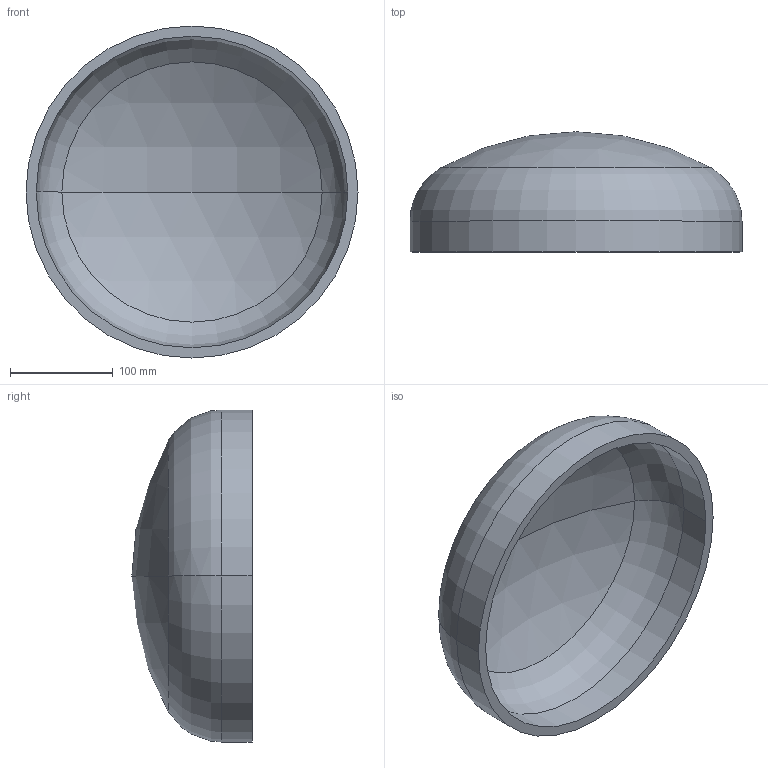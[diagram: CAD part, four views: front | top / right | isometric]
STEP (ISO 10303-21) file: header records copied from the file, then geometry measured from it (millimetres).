
FILE_DESCRIPTION (( 'STEP AP203' ), '1' );
FILE_NAME ('DIN 28013 Korbbogenform_-_Boden DIN 28013 - 323,9 x 30 - I - s=10.step', '2016-07-01T07:44:16', ( '' ), ( '' ), 'SwSTEP 2.0', 'SolidWorks 2013', '' );
FILE_SCHEMA (( 'CONFIG_CONTROL_DESIGN' ));
Length unit declared in the file: millimetre
Products named in the file (1): DIN 28013 Korbbogenform_-_Boden DIN 28013 - 323,9 x 30 - I - s=10
Bounding box: 323.9 x 117.3 x 323.9 mm (x, y, z)
Volume: 1394121.1 mm3; surface area: 288895 mm2
Topology: 1 solids, 1 shells, 13 faces, 24 edges, 14 vertices
Faces by surface type: torus 4, cylinder 4, sphere 4, plane 1
Entity records: 407 total; most frequent: DIRECTION 72, CARTESIAN_POINT 52, ORIENTED_EDGE 48, AXIS2_PLACEMENT_3D 34, EDGE_CURVE 24, CIRCLE 20, VERTEX_POINT 14, EDGE_LOOP 14
